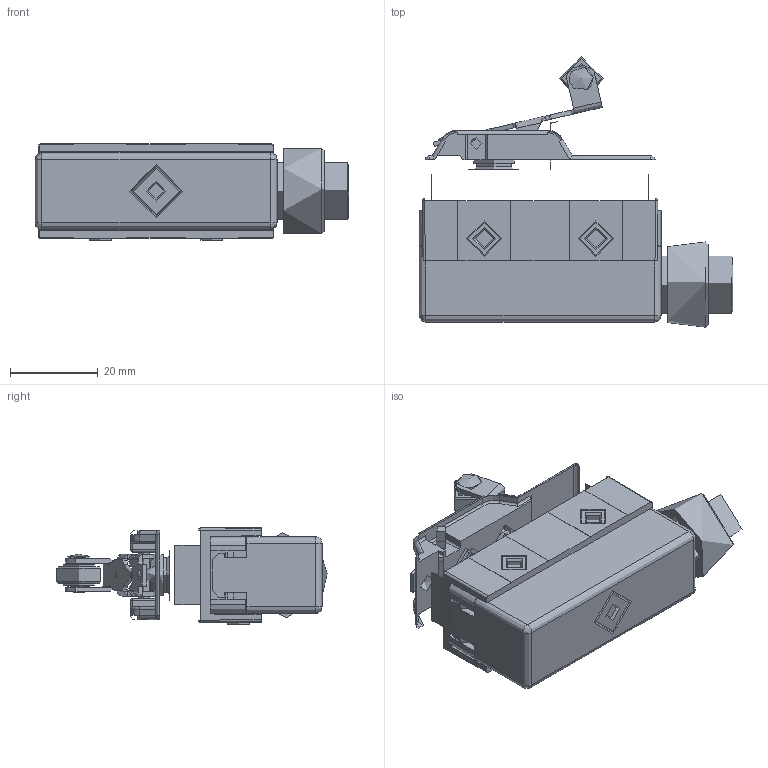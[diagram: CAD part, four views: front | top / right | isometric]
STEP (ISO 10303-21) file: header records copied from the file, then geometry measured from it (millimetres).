
FILE_DESCRIPTION((''),'2; 1');
FILE_NAME('','2026-03-27T16:32:43',(''),(''),'CST STEP Exporter V1.0','Unknown','');
FILE_SCHEMA(('CONFIG_CONTROL_DESIGN'));
Length unit declared in the file: metre
Assembly tree (17 placements, depth 2):
  (unnamed)
    (unnamed)
    (unnamed)
    (unnamed)
    (unnamed)
    (unnamed)
    (unnamed)
    (unnamed)
    (unnamed)
    (unnamed)
    (unnamed)
    (unnamed)
    (unnamed)
    (unnamed)
    (unnamed)
    (unnamed)
    (unnamed)
    (unnamed)
Bounding box: 71.33 x 61.49 x 21.9 mm (x, y, z)
Topology: 0 solids, 42 shells, 371 faces, 1034 edges, 682 vertices
Faces by surface type: plane 173, cylinder 145, torus 23, sphere 18, cone 11, bspline 1
Full cylindrical faces by diameter (mm): 1 x12, 1.2 x1, 1.8 x1, 1.9 x1, 2 x4, 2.5 x1, 2.6 x2, 3 x1, 3.2 x1, 4 x1, 4.2 x2, 5 x3, 5.2 x2, 5.5 x1, 5.7 x1, 6 x1, 7 x2, 7.5 x2, 8 x5, 8.2 x1, 9.3 x1, 10 x1, 13 x2, 16 x1, 19.4 x1
Entity records: 15927 total; most frequent: CARTESIAN_POINT 3210, DIRECTION 1971, ORIENTED_EDGE 1743, EDGE_CURVE 987, AXIS2_PLACEMENT_3D 716, VERTEX_POINT 689, VECTOR 539, LINE 539
